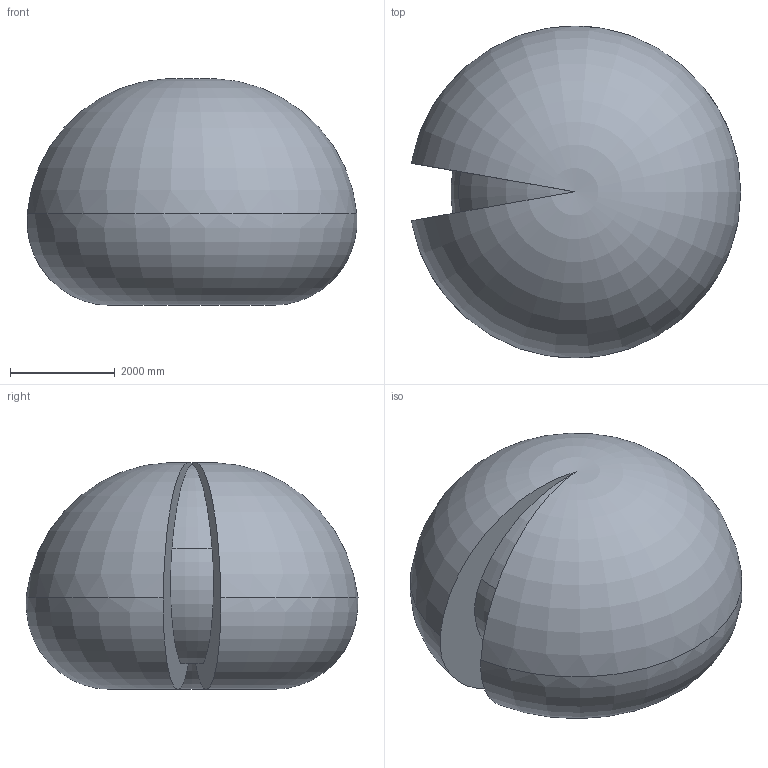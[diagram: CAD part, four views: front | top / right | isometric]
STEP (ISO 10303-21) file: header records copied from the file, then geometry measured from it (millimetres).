
FILE_DESCRIPTION (( 'STEP AP214' ), '1' );
FILE_NAME ('IRB6740_240kg-320_OC_00_Working-space.step', '2026-05-13T05:03:38', ( '' ), ( '' ), 'SwSTEP 2.0', 'SolidWorks 2024', '' );
FILE_SCHEMA (( 'AUTOMOTIVE_DESIGN' ));
Length unit declared in the file: millimetre
Products named in the file (1): IRB6740_240kg-320_OC_00_Working-space
Bounding box: 6292.4 x 6338.48 x 4326.27 mm (x, y, z)
Volume: 89587304630 mm3; surface area: 132690492.3 mm2
Topology: 1 solids, 1 shells, 12 faces, 32 edges, 18 vertices
Faces by surface type: torus 8, plane 4
Entity records: 387 total; most frequent: DIRECTION 82, CARTESIAN_POINT 59, ORIENTED_EDGE 56, AXIS2_PLACEMENT_3D 41, CIRCLE 28, EDGE_CURVE 28, VERTEX_POINT 18, FACE_OUTER_BOUND 12
